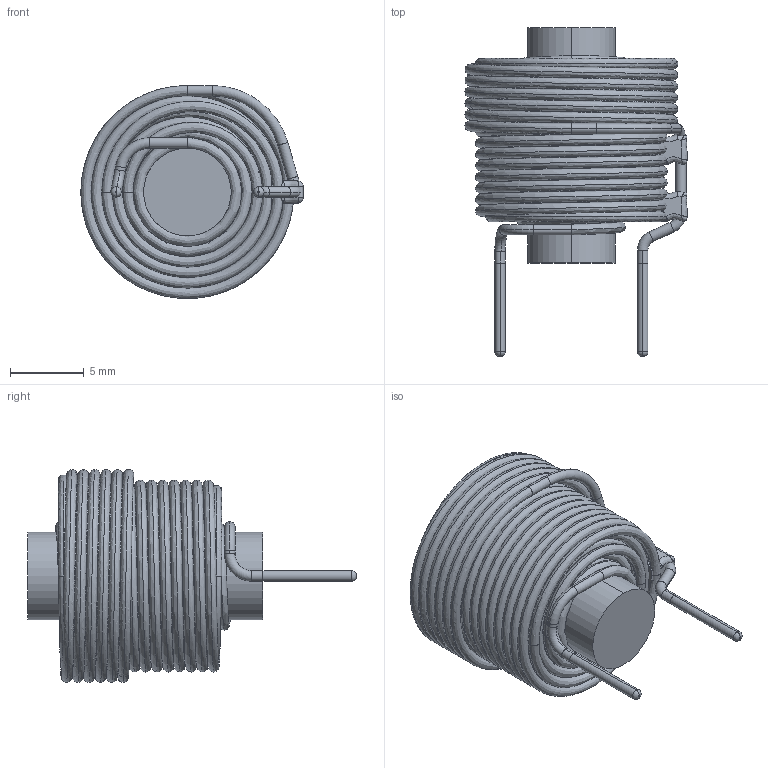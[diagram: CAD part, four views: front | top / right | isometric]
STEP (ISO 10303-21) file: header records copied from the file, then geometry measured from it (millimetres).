
FILE_DESCRIPTION (( 'STEP AP203' ), '1' );
FILE_NAME ('PV-823-03.STEP', '2020-10-05T03:57:05', ( 'Windows User' ), ( '' ), 'SwSTEP 2.0', 'SolidWorks 2015', '' );
FILE_SCHEMA (( 'CONFIG_CONTROL_DESIGN' ));
Length unit declared in the file: inch
Products named in the file (3): PV-823-03 - CORE; PV-823-03 - COIL; PV-823-03
Assembly tree (2 placements, depth 2):
  PV-823-03
    PV-823-03 - CORE
    PV-823-03 - COIL
Bounding box: 15.11 x 22.36 x 14.48 mm (x, y, z)
Volume: 1413.2 mm3; surface area: 5785.9 mm2
Topology: 18 solids, 18 shells, 144 faces, 306 edges, 178 vertices
Faces by surface type: bspline 68, plane 38, cylinder 22, torus 16
Entity records: 35761 total; most frequent: CARTESIAN_POINT 33003, ORIENTED_EDGE 572, DIRECTION 388, EDGE_CURVE 286, AXIS2_PLACEMENT_3D 179, VERTEX_POINT 178, ADVANCED_FACE 144, EDGE_LOOP 144
